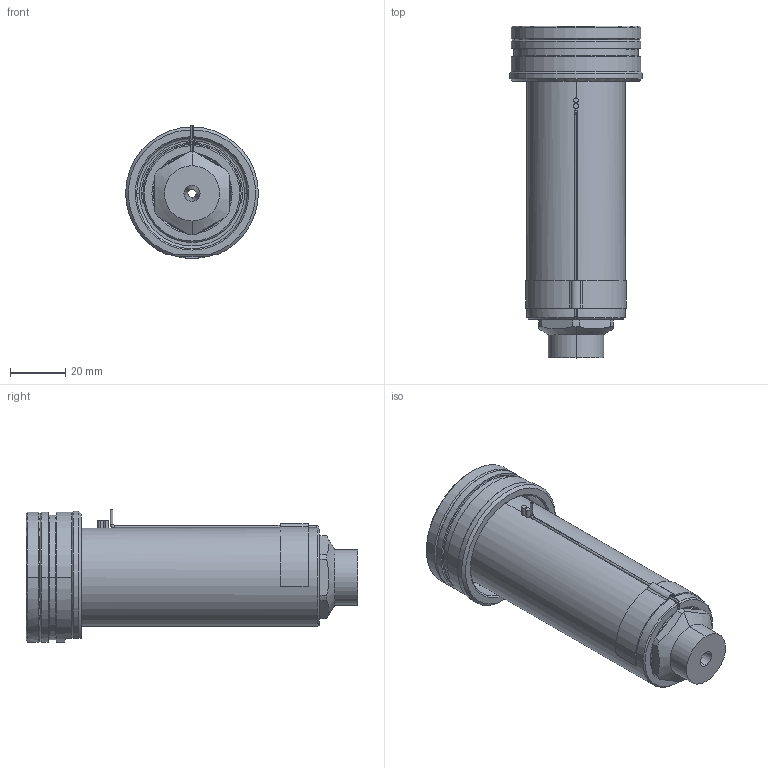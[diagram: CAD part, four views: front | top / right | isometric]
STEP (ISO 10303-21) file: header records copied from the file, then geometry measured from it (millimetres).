
FILE_DESCRIPTION((''),'2;1');
FILE_NAME('EO16_SG_SG_100_SW','2024-02-19T12:32:31',('sundharh'),(''),'CREO PARAMETRIC BY PTC INC, 2023154','CREO PARAMETRIC BY PTC INC, 2023154','');
FILE_SCHEMA(('CONFIG_CONTROL_DESIGN'));
Length unit declared in the file: millimetre
Products named in the file (1): EO16_SG_SG_100_SW
Bounding box: 47.97 x 120 x 48 mm (x, y, z)
Volume: 101276.9 mm3; surface area: 26608.2 mm2
Topology: 1 solids, 1 shells, 164 faces, 410 edges, 252 vertices
Faces by surface type: cylinder 64, plane 45, cone 31, torus 14, bspline 7, sphere 3
Entity records: 5611 total; most frequent: CARTESIAN_POINT 1620, DIRECTION 884, ORIENTED_EDGE 804, EDGE_CURVE 402, AXIS2_PLACEMENT_3D 365, VERTEX_POINT 252, CIRCLE 208, EDGE_LOOP 180
